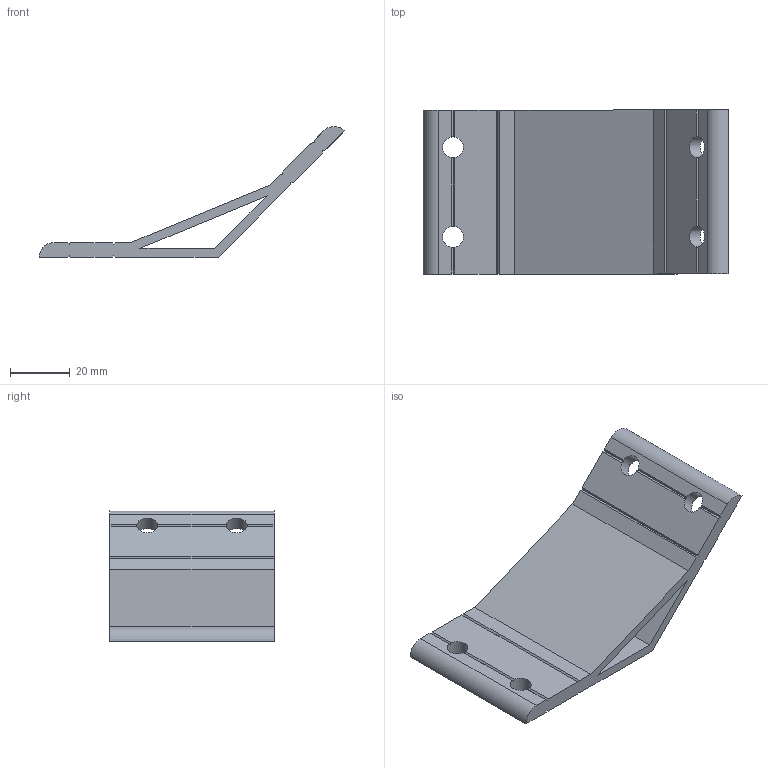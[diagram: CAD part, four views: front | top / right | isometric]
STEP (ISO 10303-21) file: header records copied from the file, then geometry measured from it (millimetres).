
FILE_DESCRIPTION(/* description */ ('Unknown'),/* implementation_level */ '2;1');
FILE_NAME(/* name */ 'AV55135',/* time_stamp */ '2026-09-17T13:56:39+08:00',/* author */ ('Unknown'),/* organization */ ('Unknown'),/* preprocessor_version */ 'ST-DEVELOPER v16.7',/* originating_system */ 'DEX',/* authorisation */ $);
FILE_SCHEMA (('AUTOMOTIVE_DESIGN {1 0 10303 214 3 1 1}'));
Length unit declared in the file: millimetre
Products named in the file (1): AV55135
Bounding box: 102.43 x 55 x 43.87 mm (x, y, z)
Volume: 33189.2 mm3; surface area: 19870.6 mm2
Topology: 1 solids, 1 shells, 56 faces, 178 edges, 116 vertices
Faces by surface type: plane 50, cylinder 6
Full cylindrical faces by diameter (mm): 7 x4
Entity records: 2000 total; most frequent: ORIENTED_EDGE 348, CARTESIAN_POINT 347, DIRECTION 340, EDGE_CURVE 174, LINE 122, VECTOR 122, VERTEX_POINT 116, AXIS2_PLACEMENT_3D 109
